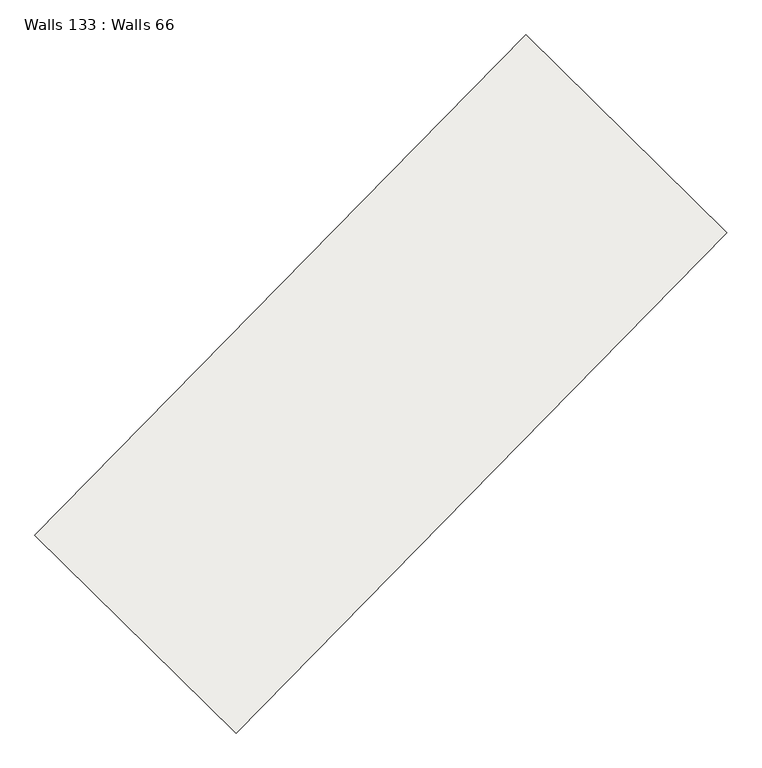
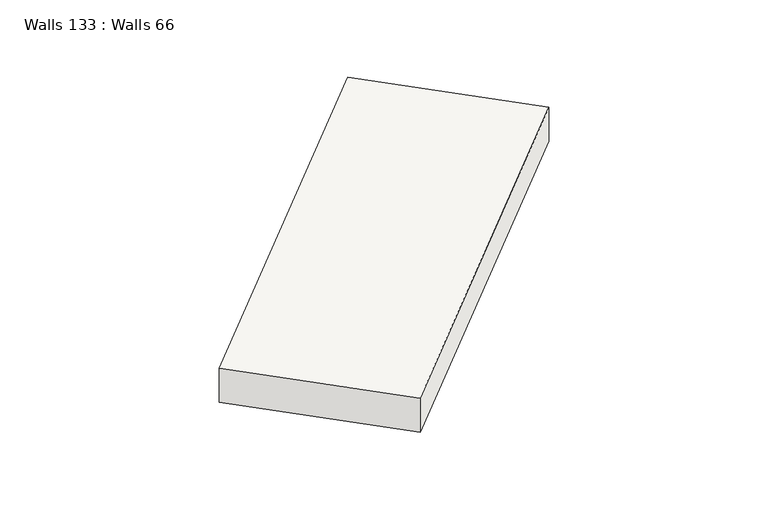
"""IFC4 building model written with IfcOpenShell, lengths in millimetres: slab geometry, Walls 133 : Walls 66."""

from ifc_helpers import new_model, si_unit, frame, origin, place, context, project, spatial, polyline, outline, extrude, source, transform, mapped, element, save


def walls_133_walls_66_fbe00283(model_context):
    return source(origin(), model_context, "Body", "SweptSolid", [
        extrude(outline(polyline([(-350.0, 0.0), (350.0, 0.0), (260.0, -8699.9999995), (-440.0, -8699.9999995), (-350.0, 0.0)])), frame((18259.2557431, -140595.5938594, 638710.0), z_axis=(-0.7137361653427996, 0.700414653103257, 0.0), x_axis=(0.0, 0.0, 1.0)), (0.0, 0.0, 1.0), 3499.999995),
    ])


if __name__ == "__main__":
    model = new_model("IFC4")
    model_context = context("Model", 3, world=origin())
    ifc_project = project(units=[si_unit("LENGTHUNIT", "METRE", prefix="MILLI")], contexts=[model_context])
    site = spatial("IfcSite", under=ifc_project)
    building = spatial("IfcBuilding", under=site)
    placement = place(None, origin())
    walls_133_walls_66_shape = walls_133_walls_66_fbe00283(model_context)
    element("IfcSlab", 1, ObjectType="Walls 133 : Walls 66", at=placement, inside=building, context=model_context, shape_type="MappedRepresentation", body=[
        mapped(walls_133_walls_66_shape, transform((0.0, 0.0, 0.0), x_axis=(1.0, 0.0, 0.0), y_axis=(0.0, 1.0, 0.0), z_axis=(0.0, 0.0, 1.0))),
    ])
    save(model, "model.ifc")
